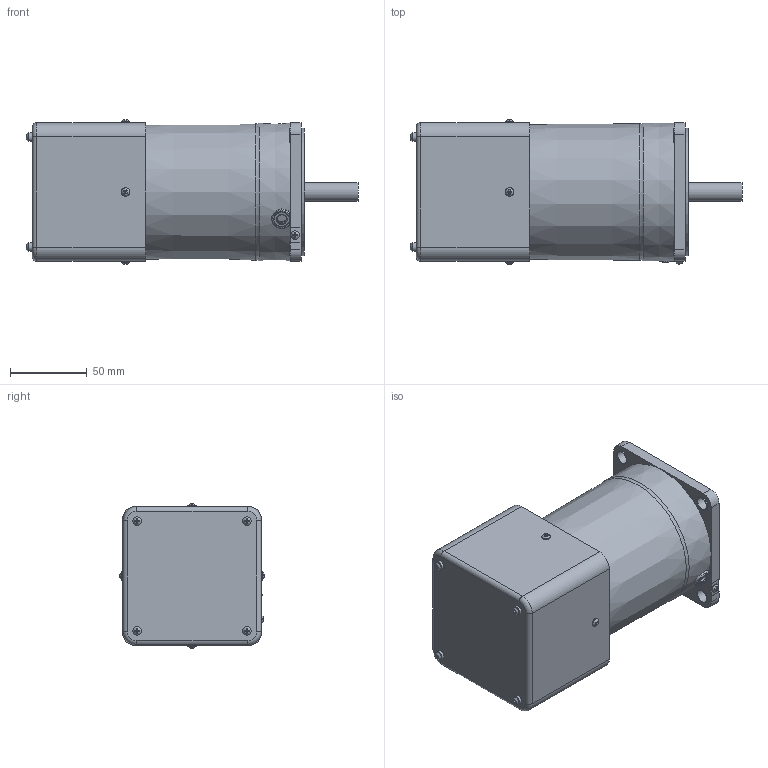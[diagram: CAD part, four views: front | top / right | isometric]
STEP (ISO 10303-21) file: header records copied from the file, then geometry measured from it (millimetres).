
FILE_DESCRIPTION(/* description */ (''),/* implementation_level */ '2;1');
FILE_NAME(/* name */ 'E:\도면작업\2016\0704) 미주향 SG 도면\3D MOTOR\SPEED CONTROL TYPE\SG9I90S_-S12(24).stp',/* time_stamp */ '2017-08-21T11:15:54+09:00',/* author */ ('jy-jung'),/* organization */ (''),/* preprocessor_version */ 'ST-DEVELOPER v15.6',/* originating_system */ 'Autodesk Inventor 2015',/* authorisation */ '');
FILE_SCHEMA (('AUTOMOTIVE_DESIGN { 1 0 10303 214 3 1 1 }'));
Length unit declared in the file: millimetre
Products named in the file (1): 부품27
Bounding box: 215.75 x 93.89 x 93.89 mm (x, y, z)
Volume: 966013.7 mm3; surface area: 105396 mm2
Topology: 1 solids, 7 shells, 307 faces, 747 edges, 483 vertices
Faces by surface type: plane 192, cylinder 72, torus 27, bspline 9, cone 7
Full cylindrical faces by diameter (mm): 3 x8, 4.5 x4, 5.6 x13, 6 x1, 8.5 x4, 9.5 x4, 10 x1, 12 x1, 40 x1, 83 x1
Entity records: 9580 total; most frequent: CARTESIAN_POINT 2429, ORIENTED_EDGE 1358, DIRECTION 1330, EDGE_CURVE 679, AXIS2_PLACEMENT_3D 486, VERTEX_POINT 479, EDGE_LOOP 418, LINE 358
